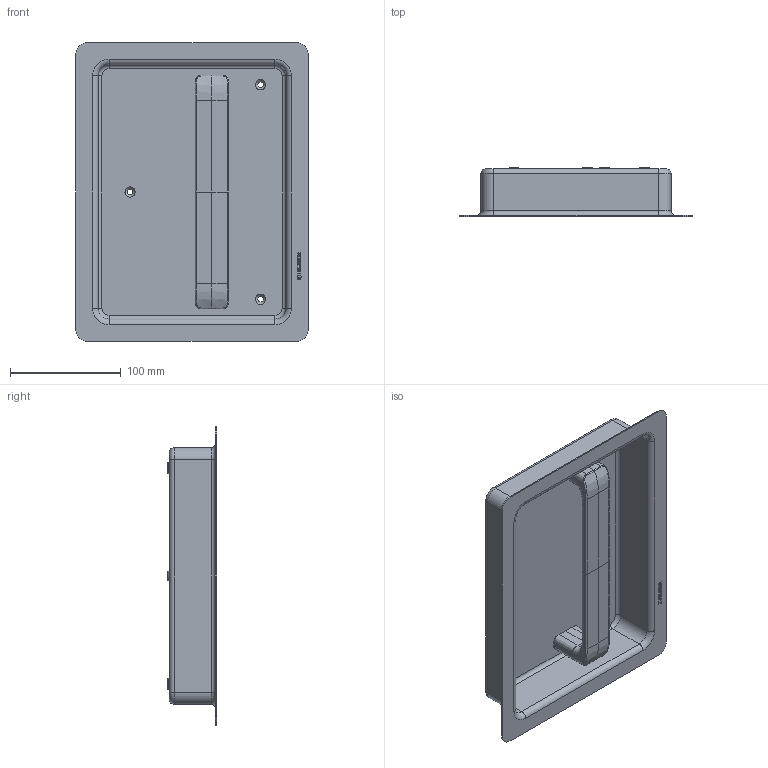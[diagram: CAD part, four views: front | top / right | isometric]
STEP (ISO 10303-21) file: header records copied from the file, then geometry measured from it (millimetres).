
FILE_DESCRIPTION(/* description */ (''),/* implementation_level */ '2;1');
FILE_NAME(/* name */ 'C:\ADSK_DMS_WS\Designs\Vorschläge\Loc Schalen\Heusser Muschel\Heusser-Muschel mit D6\Heusser-Muschel S6.42 mit D6\S6.42.D6.0R..stp',/* time_stamp */ '2025-04-11T11:24:54+02:00',/* author */ ('gm'),/* organization */ (''),/* preprocessor_version */ 'ST-DEVELOPER v17.2',/* originating_system */ 'Autodesk Inventor 2019',/* authorisation */ '');
FILE_SCHEMA (('AUTOMOTIVE_DESIGN { 1 0 10303 214 3 1 1 }'));
Length unit declared in the file: millimetre
Products named in the file (4): S6.42.D6.R.; Schale S6.42.R.D6; D6; M5x10 zu D6
Assembly tree (6 placements, depth 2):
  S6.42.D6.R.
    Schale S6.42.R.D6
    D6
    M5x10 zu D6  x4
Bounding box: 210 x 44.5 x 270 mm (x, y, z)
Volume: 168707.6 mm3; surface area: 196868.5 mm2
Topology: 6 solids, 6 shells, 385 faces, 986 edges, 632 vertices
Faces by surface type: plane 125, bspline 98, cylinder 92, cone 50, torus 20
Full cylindrical faces by diameter (mm): 4.134 x4, 5 x4, 5.5 x4, 9 x4
Entity records: 13461 total; most frequent: CARTESIAN_POINT 6460, ORIENTED_EDGE 1548, DIRECTION 1161, EDGE_CURVE 774, VERTEX_POINT 497, LINE 417, VECTOR 417, AXIS2_PLACEMENT_3D 372
